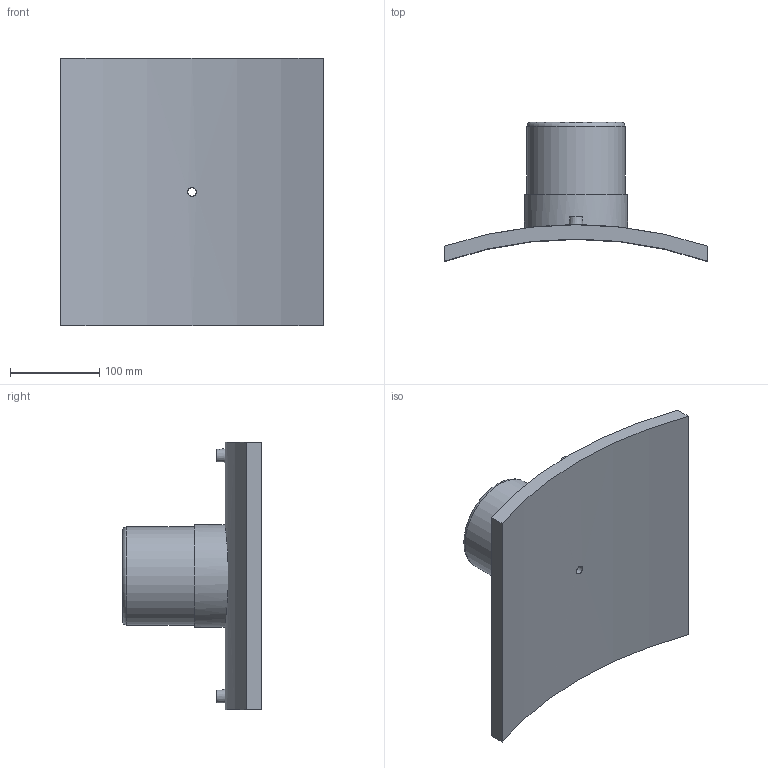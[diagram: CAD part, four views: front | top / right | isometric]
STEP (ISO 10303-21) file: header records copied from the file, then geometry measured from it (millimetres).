
FILE_DESCRIPTION(/* description */ ('PLASSON BRANCH SADDLE 900x110'),/* implementation_level */ '2;1');
FILE_NAME(/* name */ 'C:\Dropbox\99-16-3568-Processing\ElectroFusion Fittings\495803\495803900110T.ipt.stp',/* time_stamp */ '2021-02-25T09:45:56+02:00',/* author */ ('KIM'),/* organization */ (''),/* preprocessor_version */ 'ST-DEVELOPER v17.2',/* originating_system */ 'Autodesk Inventor 2019',/* authorisation */ '');
FILE_SCHEMA (('AUTOMOTIVE_DESIGN { 1 0 10303 214 3 1 1 }'));
Length unit declared in the file: millimetre
Products named in the file (1): 495803900110T
Bounding box: 295 x 155.86 x 300 mm (x, y, z)
Volume: 1879924.2 mm3; surface area: 278765 mm2
Topology: 1 solids, 1 shells, 29 faces, 60 edges, 43 vertices
Faces by surface type: plane 13, cylinder 12, torus 2, cone 2
Full cylindrical faces by diameter (mm): 4 x2, 9.6 x1, 10 x2, 16 x1, 88 x1, 110 x1, 115.5 x1
Entity records: 1086 total; most frequent: CARTESIAN_POINT 400, DIRECTION 139, ORIENTED_EDGE 120, EDGE_CURVE 60, AXIS2_PLACEMENT_3D 60, VERTEX_POINT 43, EDGE_LOOP 41, CIRCLE 30
